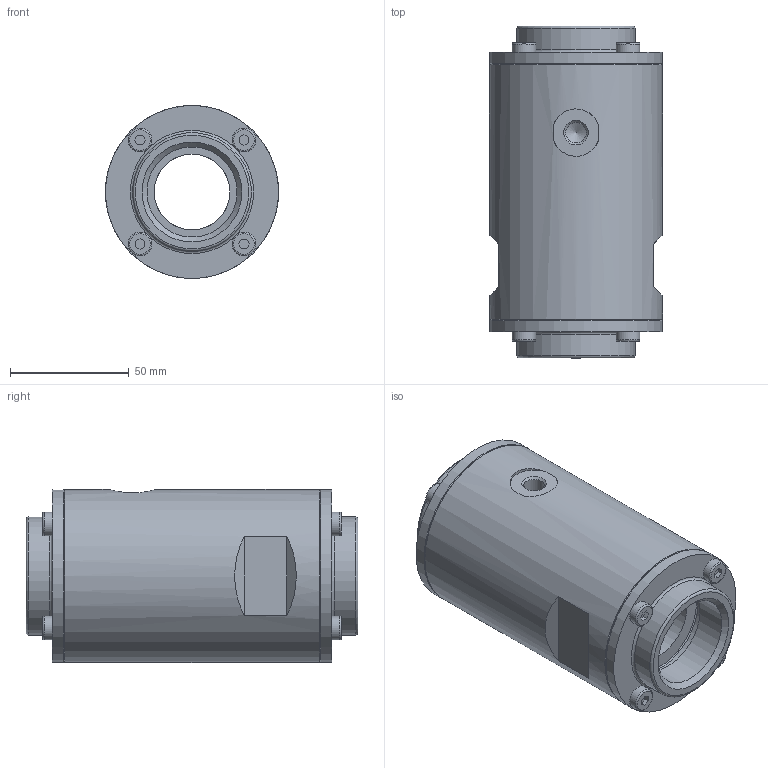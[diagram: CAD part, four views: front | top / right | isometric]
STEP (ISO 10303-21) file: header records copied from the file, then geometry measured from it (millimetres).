
FILE_DESCRIPTION(/* description */ (''),/* implementation_level */ '2;1');
FILE_NAME(/* name */ 'Serie70_QV32_assembly_VEREINFACHT.stp',/* time_stamp */ '2013-10-05T12:14:48+02:00',/* author */ (''),/* organization */ (''),/* preprocessor_version */ 'ST-DEVELOPER v11',/* originating_system */ 'SIEMENS PLM Software NX 7.5',/* authorisation */ '');
FILE_SCHEMA (('AUTOMOTIVE_DESIGN { 1 0 10303 214 1 1 1 1 }'));
Length unit declared in the file: millimetre
Products named in the file (1): memd369C6jtu
Bounding box: 73 x 140 x 73 mm (x, y, z)
Volume: 402433.1 mm3; surface area: 88361.4 mm2
Topology: 27 solids, 27 shells, 290 faces, 588 edges, 382 vertices
Faces by surface type: plane 137, cylinder 91, torus 34, cone 28
Full cylindrical faces by diameter (mm): 4.92 x16, 5 x8, 6 x24, 6.2 x8, 6.5 x8, 8.611 x1, 10 x8, 32 x3, 38.1 x2, 44.7 x2, 50 x2, 68.8 x2, 69.1 x2, 73 x3
Entity records: 6657 total; most frequent: DIRECTION 1194, CARTESIAN_POINT 1028, ORIENTED_EDGE 758, AXIS2_PLACEMENT_3D 520, EDGE_LOOP 510, FACE_BOUND 431, EDGE_CURVE 379, VERTEX_POINT 334
